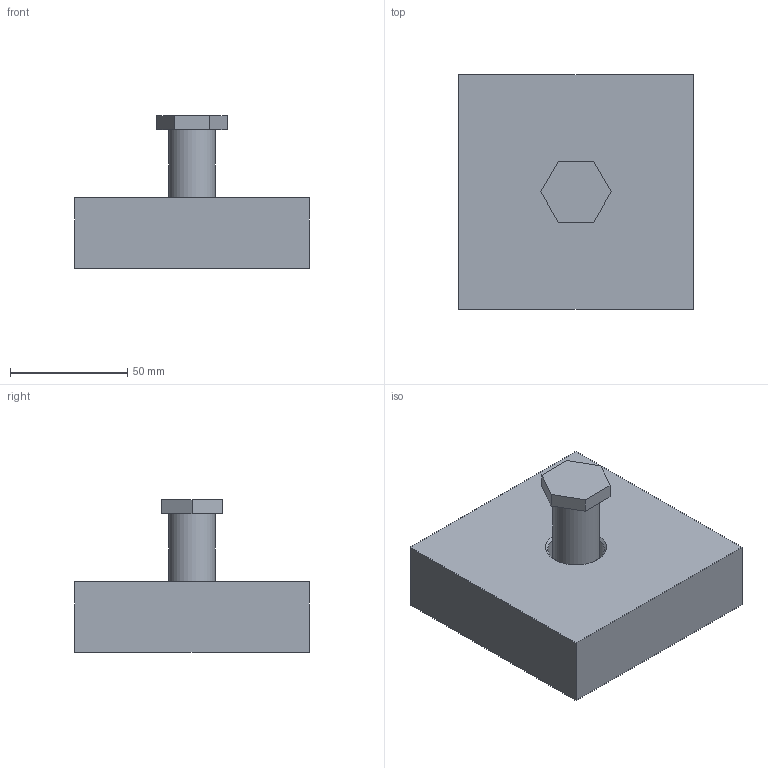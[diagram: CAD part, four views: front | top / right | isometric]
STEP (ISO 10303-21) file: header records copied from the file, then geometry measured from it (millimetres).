
FILE_DESCRIPTION(('Open CASCADE Model'),'2;1');
FILE_NAME('Open CASCADE Shape Model','2026-10-21T17:23:57',('Author'),( 'Open CASCADE'),'Open CASCADE STEP processor 7.9','Open CASCADE 7.9' ,'Unknown');
FILE_SCHEMA(('AUTOMOTIVE_DESIGN { 1 0 10303 214 1 1 1 1 }'));
Length unit declared in the file: millimetre
Products named in the file (3): P01_illustrative; round_base_24_0; round_peg_60_1
Assembly tree (2 placements, depth 2):
  P01_illustrative
    round_base_24_0
    round_peg_60_1
Bounding box: 100 x 100 x 65 mm (x, y, z)
Volume: 305815.7 mm3; surface area: 38826.5 mm2
Topology: 2 solids, 2 shells, 26 faces, 50 edges, 33 vertices
Faces by surface type: plane 19, cylinder 6, cone 1
Full cylindrical faces by diameter (mm): 10.2 x4, 20 x1, 24 x1
Entity records: 1390 total; most frequent: CARTESIAN_POINT 242, DIRECTION 216, LINE 125, VECTOR 125, ORIENTED_EDGE 100, PCURVE 100, DEFINITIONAL_REPRESENTATION 100, EDGE_CURVE 50
